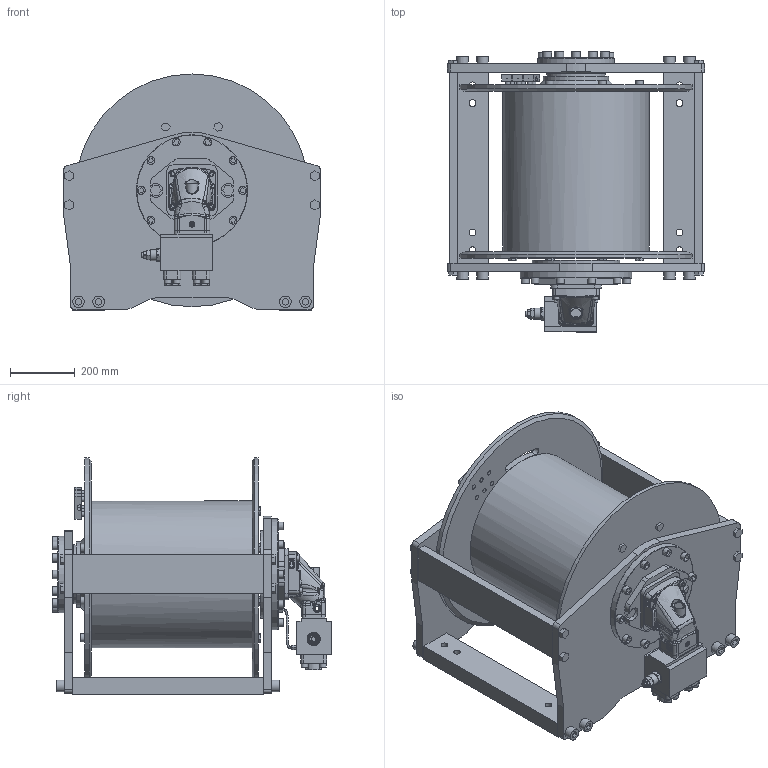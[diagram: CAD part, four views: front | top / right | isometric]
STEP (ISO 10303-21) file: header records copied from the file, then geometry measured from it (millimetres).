
FILE_DESCRIPTION( ( 'Unknown' ), '1' );
FILE_NAME( 'C:/Users/s.caputo/Desktop/Nuova cartella/ASSIEME_S101_STANDARD_mi2859.stp', 'Unknown', ( 'Unknown' ), ( 'Unknown' ), 'PSStep 17.0.49', 'Unknown', ' ' );
FILE_SCHEMA( ( 'AUTOMOTIVE_DESIGN { 1 0 10303 214 1 1 1 1 }' ) );
Length unit declared in the file: millimetre
Products named in the file (18): 3792627D; 37926287D_SW0002_0; V-tcei M 10 x 40; GRUPPO_MOTORE; Centrallina_mir1; TAPPO_MOTORE; Tappo di regolazione_mir1; Assem1; TAMBURO; Raccordo_tubo_Ø6_dritto; SUPPORTO_MOTORE; FLANGIA_POST; APPOGGIO; TIRANTE; MORSETTO_L75; TUBO_NEW; SUPPORTO_OPP_MOTORE; FLANGIA_MOTORE
Assembly tree (26 placements, depth 4):
  Assem1
    TAMBURO
    Raccordo_tubo_Ø6_dritto  x2
    SUPPORTO_MOTORE
    FLANGIA_POST
    APPOGGIO  x2
    TIRANTE  x2
    MORSETTO_L75  x3
    TUBO_NEW
    SUPPORTO_OPP_MOTORE
    FLANGIA_MOTORE
    GRUPPO_MOTORE
      Centrallina_mir1
      TAPPO_MOTORE  x2
      Tappo di regolazione_mir1
      3792627D
        37926287D_SW0002_0
        V-tcei M 10 x 40  x4
Bounding box: 795 x 865.52 x 730 mm (x, y, z)
Volume: 133733958.9 mm3; surface area: 5325648.6 mm2
Topology: 23 solids, 72 shells, 1794 faces, 4329 edges, 2821 vertices
Faces by surface type: plane 940, cylinder 399, bspline 364, torus 52, sphere 20, cone 15, revolution 4
Full cylindrical faces by diameter (mm): 6 x16, 6.229 x2, 7 x8, 10 x14, 14 x6, 15.862 x1, 16 x5, 21 x22, 22 x6, 24 x10, 25 x8, 27 x12, 35 x1, 36 x8, 41 x1, 129 x1, 150 x2, 182.002 x1, 189.535 x1, 203 x1, 237 x1, 269.995 x1, 343.993 x1, 454 x1, 720 x2
Entity records: 81992 total; most frequent: CARTESIAN_POINT 36757, ORIENTED_EDGE 7166, DIRECTION 5122, EDGE_CURVE 3697, VERTEX_POINT 2469, EDGE_LOOP 1912, AXIS2_PLACEMENT_3D 1731, LINE 1656
